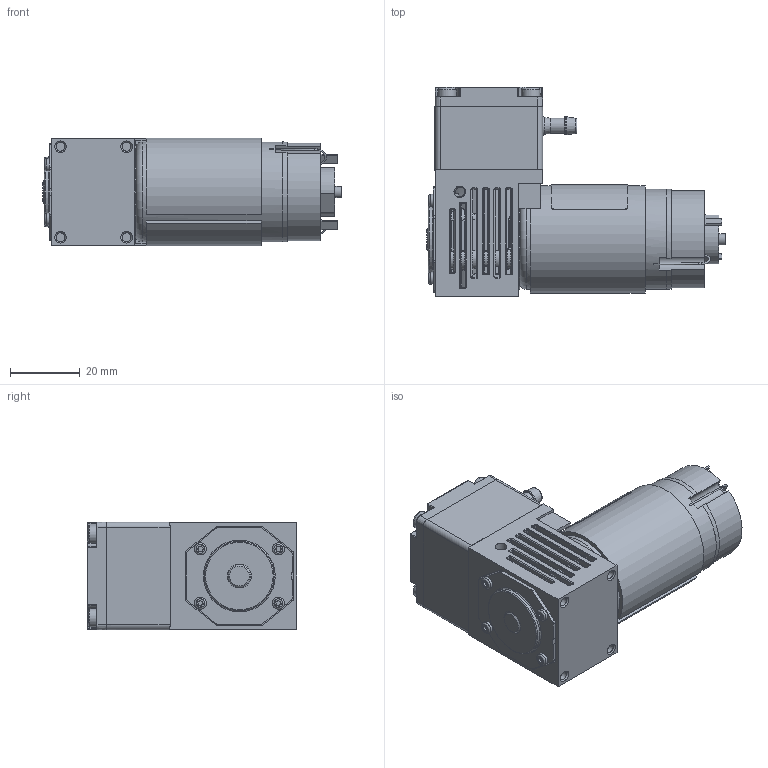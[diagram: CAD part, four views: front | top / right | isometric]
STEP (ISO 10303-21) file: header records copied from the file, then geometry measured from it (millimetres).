
FILE_DESCRIPTION (( 'STEP AP203' ), '1' );
FILE_NAME ('64100011-18.STEP', '2019-11-13T10:08:21', ( 'admin' ), ( 'Gardner Denver' ), 'SwSTEP 2.0', 'SolidWorks 2018', '' );
FILE_SCHEMA (( 'CONFIG_CONTROL_DESIGN' ));
Length unit declared in the file: millimetre
Products named in the file (1): 64100011-18
Bounding box: 85.7 x 60.2 x 30.9 mm (x, y, z)
Volume: 88013.9 mm3; surface area: 18129.5 mm2
Topology: 1 solids, 9 shells, 897 faces, 2113 edges, 1250 vertices
Faces by surface type: cylinder 269, plane 243, bspline 125, torus 112, sphere 90, cone 58
Full cylindrical faces by diameter (mm): 0.5 x2, 1.95 x1, 2.5 x4, 3 x1, 3.175 x1, 3.2 x2, 3.3 x2, 3.5 x4, 4.4 x2, 5.2 x2, 5.3 x4, 20 x1, 28.7 x1, 29 x1
Entity records: 27881 total; most frequent: CARTESIAN_POINT 8683, DIRECTION 3995, ORIENTED_EDGE 3956, EDGE_CURVE 1978, AXIS2_PLACEMENT_3D 1633, VERTEX_POINT 1208, EDGE_LOOP 1006, FACE_OUTER_BOUND 948
